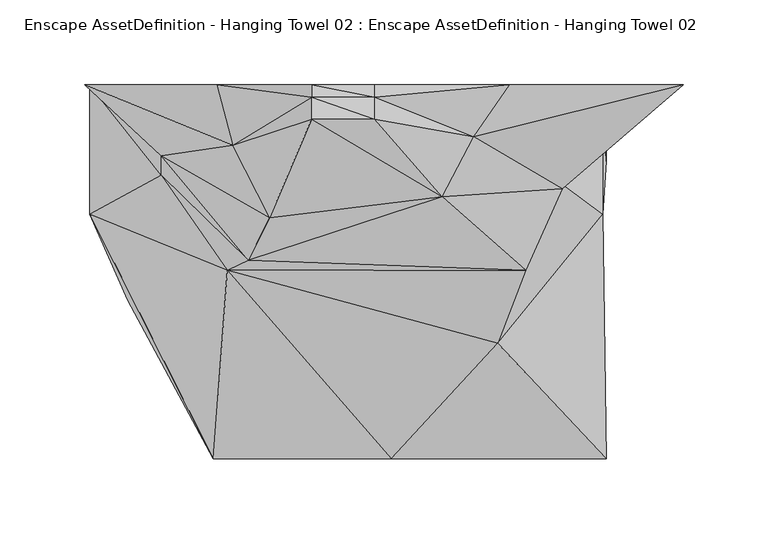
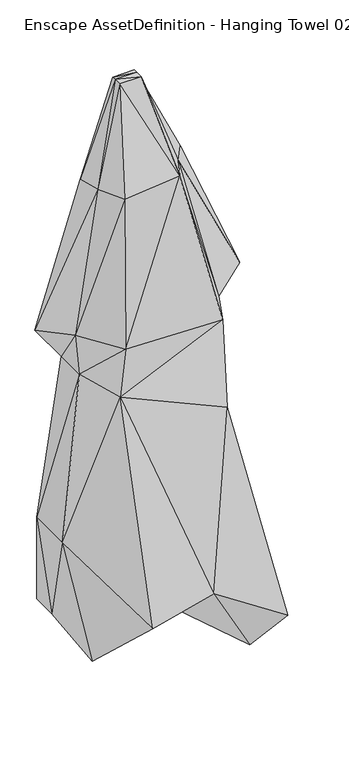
"""IFC4 building model written with IfcOpenShell, lengths in millimetres: geographic element geometry, Enscape AssetDefinition - Hanging Towel 02 : Enscape AssetDefinition - Hanging Towel 02."""

from ifc_helpers import new_model, si_unit, origin, place, context, project, spatial, faceted_brep, source, transform, mapped, element, save


def enscape_assetdefinition_hanging_towel_02_enscape_f5c1a14c(model_context):
    return source(origin(), model_context, "Body", "Brep", [
        faceted_brep([(26.1099488, 0.0001026, -835.4351521), (-140.8462524, 0.0001033, -897.8039622), (-140.8462524, 7.67e-05, -749.6650815), (-140.8462524, -44.86081, -897.8039622), (26.1099488, -44.8608138, -835.4351521), (163.6951864, 9.47e-05, -889.2425299), (161.5846157, 7.67e-05, -749.6650815), (-140.8462524, -76.1151314, -749.6651411), (-118.5972393, -126.9618124, -942.5051212), (163.6951864, -44.8608138, -889.2425299), (152.9378891, -126.9618273, -1007.3040724), (20.8992716, -126.9618273, -893.3289051), (161.5846157, -76.115109, -749.6651411), (36.9652063, -220.5139399, -817.296803), (163.6951864, -220.5139101, -900.2816677), (-68.0477247, -220.5139846, -844.1799283), (-59.9271469, -109.2561185, -492.6717877), (99.6323824, -152.2687674, -540.5723453), (130.6039393, -53.3567667, -471.3841677), (116.1623895, -109.4547585, -413.3241177), (-98.6374915, -53.3567779, -471.3841677), (-47.3958775, -103.2721326, -413.3241177), (67.0051426, -66.078566, -159.9998176), (137.6370788, -61.1173399, -407.5964987), (130.6039393, 1.71e-05, -471.3841677), (85.4836479, -30.6191761, -159.9998176), (209.0557516, 6.7e-06, -407.5964987), (-98.6374915, 1.71e-05, -471.3841677), (-143.8758075, 6.7e-06, -407.5964987), (106.6249385, -3.36e-05, -159.9998176), (27.220618, -7.2334888, 6.2445677), (27.220618, -20.4652883, 6.2446054), (-65.9679696, -3.36e-05, -159.9998176), (27.220618, -6.43e-05, 6.2445677), (-56.6041134, -35.7418396, -159.9998176), (-98.7286344, -41.6863747, -407.5964987), (-10.0057032, -7.2334888, 6.2445677), (-10.0057032, -6.43e-05, 6.2445677), (-10.0057032, -20.4652883, 6.2446054), (-34.7675942, -78.3461109, -159.9998176)], [[[0, 1, 2]], [[3, 1, 0]], [[3, 2, 1]], [[4, 0, 5]], [[0, 2, 6]], [[3, 0, 4]], [[0, 6, 5]], [[7, 2, 3]], [[7, 3, 8]], [[4, 8, 3]], [[4, 9, 10]], [[4, 11, 8]], [[4, 10, 11]], [[4, 5, 9]], [[9, 5, 6]], [[9, 12, 10]], [[9, 6, 12]], [[13, 11, 10]], [[10, 12, 14]], [[13, 10, 14]], [[15, 8, 11]], [[15, 11, 13]], [[7, 8, 15]], [[13, 16, 15]], [[16, 7, 15]], [[13, 14, 17]], [[13, 17, 16]], [[12, 17, 14]], [[12, 6, 18]], [[18, 17, 12]], [[16, 17, 19]], [[18, 19, 17]], [[20, 7, 16]], [[20, 16, 21]], [[16, 19, 21]], [[21, 19, 22]], [[23, 19, 18]], [[23, 22, 19]], [[18, 24, 23]], [[18, 6, 24]], [[23, 25, 22]], [[23, 26, 25]], [[23, 24, 26]], [[6, 2, 24]], [[24, 27, 28]], [[24, 2, 27]], [[24, 28, 26]], [[26, 28, 29]], [[25, 26, 29]], [[25, 29, 30]], [[25, 30, 31]], [[25, 31, 22]], [[29, 32, 33]], [[30, 29, 33]], [[29, 28, 32]], [[34, 32, 28]], [[35, 28, 27]], [[34, 28, 35]], [[36, 37, 32]], [[36, 32, 34]], [[33, 32, 37]], [[30, 33, 37]], [[30, 36, 31]], [[30, 37, 36]], [[38, 22, 31]], [[31, 36, 38]], [[36, 34, 38]], [[38, 34, 39]], [[35, 39, 34]], [[35, 21, 39]], [[35, 27, 20]], [[20, 21, 35]], [[39, 22, 38]], [[21, 22, 39]], [[20, 27, 2]], [[20, 2, 7]]]),
    ])


if __name__ == "__main__":
    model = new_model("IFC4")
    model_context = context("Model", 3, world=origin())
    ifc_project = project(units=[si_unit("LENGTHUNIT", "METRE", prefix="MILLI")], contexts=[model_context])
    site = spatial("IfcSite", under=ifc_project)
    building = spatial("IfcBuilding", under=site)
    placement = place(None, origin())
    enscape_assetdefinition_hanging_towel_02_enscape_shape = enscape_assetdefinition_hanging_towel_02_enscape_f5c1a14c(model_context)
    element("IfcGeographicElement", 1, ObjectType="Enscape AssetDefinition - Hanging Towel 02 : Enscape AssetDefinition - Hanging Towel 02", at=placement, inside=building, context=model_context, shape_type="MappedRepresentation", body=[
        mapped(enscape_assetdefinition_hanging_towel_02_enscape_shape, transform((0.0, 0.0, 0.0), x_axis=(1.0, 0.0, 0.0), y_axis=(0.0, 1.0, 0.0), z_axis=(0.0, 0.0, 1.0))),
    ])
    save(model, "model.ifc")
